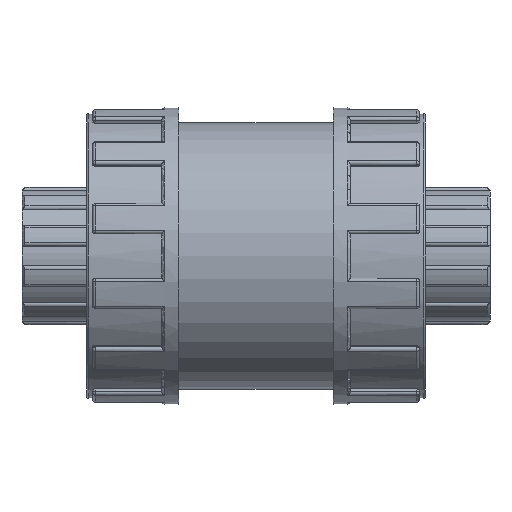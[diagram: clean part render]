
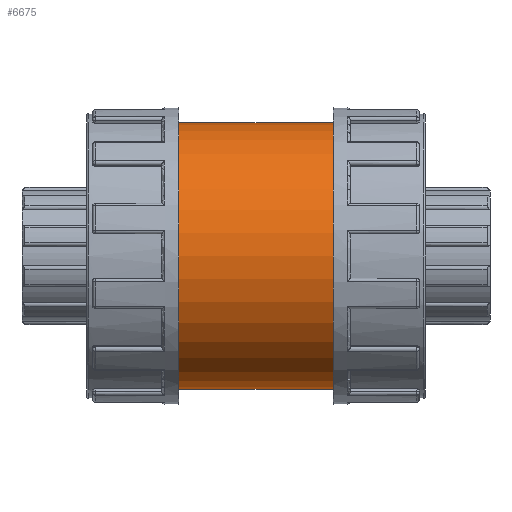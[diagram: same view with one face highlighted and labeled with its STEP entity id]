
A CAD part, front view. The second image highlights one B-rep face of the part: STEP entity #6675.
In plain terms, the highlighted cylindrical face has radius 20.25 mm (diameter 40.5 mm), a full revolution.
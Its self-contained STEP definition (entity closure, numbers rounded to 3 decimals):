
#185=FACE_BOUND('',#1099,.T.);
#186=FACE_BOUND('',#1100,.T.);
#670=FACE_OUTER_BOUND('',#1098,.T.);
#1098=EDGE_LOOP('',(#6073));
#1099=EDGE_LOOP('',(#6074));
#1100=EDGE_LOOP('',(#6075));
#1149=B_SPLINE_CURVE_WITH_KNOTS('',3,(#10735,#10736,#10737,#10738,#10739,
#10740,#10741,#10742,#10743,#10744,#10745,#10746,#10747,#10748,#10749,#10750,
#10751,#10752,#10753,#10754,#10755,#10756,#10757,#10758,#10759,#10760,#10761,
#10762,#10763,#10764,#10765,#10766,#10767,#10768),.UNSPECIFIED.,.T.,.F.,
(4,2,2,2,2,2,2,2,2,2,2,2,2,2,2,2,4),(0.,0.256,0.513,
0.769,1.026,1.282,1.538,1.795,
2.051,2.308,2.564,2.82,3.077,
3.333,3.589,3.846,4.102),
 .UNSPECIFIED.);
#2472=CIRCLE('',#7578,20.25);
#2473=CIRCLE('',#7580,20.25);
#2638=VERTEX_POINT('',#10734);
#3083=VERTEX_POINT('',#13353);
#3084=VERTEX_POINT('',#13356);
#3349=EDGE_CURVE('',#2638,#2638,#1149,.T.);
#4082=EDGE_CURVE('',#3083,#3083,#2472,.T.);
#4083=EDGE_CURVE('',#3084,#3084,#2473,.T.);
#6073=ORIENTED_EDGE('',*,*,#4082,.T.);
#6074=ORIENTED_EDGE('',*,*,#3349,.T.);
#6075=ORIENTED_EDGE('',*,*,#4083,.F.);
#6267=CYLINDRICAL_SURFACE('',#7579,20.25);
#6675=ADVANCED_FACE('',(#670,#185,#186),#6267,.T.);
#7578=AXIS2_PLACEMENT_3D('',#13354,#9749,#9750);
#7579=AXIS2_PLACEMENT_3D('',#13355,#9751,#9752);
#7580=AXIS2_PLACEMENT_3D('',#13357,#9753,#9754);
#9749=DIRECTION('center_axis',(1.,0.,0.));
#9750=DIRECTION('ref_axis',(0.,0.,-1.));
#9751=DIRECTION('center_axis',(1.,0.,0.));
#9752=DIRECTION('ref_axis',(0.,1.,0.));
#9753=DIRECTION('center_axis',(1.,0.,0.));
#9754=DIRECTION('ref_axis',(0.,0.,-1.));
#10734=CARTESIAN_POINT('',(0.,19.092,-6.75));
#10735=CARTESIAN_POINT('Ctrl Pts',(0.,19.092,
-6.75));
#10736=CARTESIAN_POINT('Ctrl Pts',(0.855,19.092,-6.75));
#10737=CARTESIAN_POINT('Ctrl Pts',(1.762,19.155,-6.578));
#10738=CARTESIAN_POINT('Ctrl Pts',(3.423,19.379,-5.887));
#10739=CARTESIAN_POINT('Ctrl Pts',(4.177,19.535,-5.369));
#10740=CARTESIAN_POINT('Ctrl Pts',(5.368,19.824,-4.177));
#10741=CARTESIAN_POINT('Ctrl Pts',(5.887,19.976,-3.423));
#10742=CARTESIAN_POINT('Ctrl Pts',(6.578,20.191,-1.762));
#10743=CARTESIAN_POINT('Ctrl Pts',(6.75,20.25,-0.854));
#10744=CARTESIAN_POINT('Ctrl Pts',(6.75,20.25,0.854));
#10745=CARTESIAN_POINT('Ctrl Pts',(6.578,20.191,1.762));
#10746=CARTESIAN_POINT('Ctrl Pts',(5.887,19.976,3.423));
#10747=CARTESIAN_POINT('Ctrl Pts',(5.368,19.824,4.177));
#10748=CARTESIAN_POINT('Ctrl Pts',(4.177,19.535,5.369));
#10749=CARTESIAN_POINT('Ctrl Pts',(3.423,19.379,5.887));
#10750=CARTESIAN_POINT('Ctrl Pts',(1.762,19.155,6.578));
#10751=CARTESIAN_POINT('Ctrl Pts',(0.855,19.092,6.75));
#10752=CARTESIAN_POINT('Ctrl Pts',(-0.855,19.092,
6.75));
#10753=CARTESIAN_POINT('Ctrl Pts',(-1.762,19.155,6.578));
#10754=CARTESIAN_POINT('Ctrl Pts',(-3.423,19.379,5.887));
#10755=CARTESIAN_POINT('Ctrl Pts',(-4.177,19.535,5.369));
#10756=CARTESIAN_POINT('Ctrl Pts',(-5.368,19.824,4.177));
#10757=CARTESIAN_POINT('Ctrl Pts',(-5.887,19.976,3.423));
#10758=CARTESIAN_POINT('Ctrl Pts',(-6.578,20.191,1.762));
#10759=CARTESIAN_POINT('Ctrl Pts',(-6.75,20.25,0.854));
#10760=CARTESIAN_POINT('Ctrl Pts',(-6.75,20.25,-0.854));
#10761=CARTESIAN_POINT('Ctrl Pts',(-6.578,20.191,-1.762));
#10762=CARTESIAN_POINT('Ctrl Pts',(-5.887,19.976,-3.423));
#10763=CARTESIAN_POINT('Ctrl Pts',(-5.368,19.824,-4.177));
#10764=CARTESIAN_POINT('Ctrl Pts',(-4.177,19.535,-5.369));
#10765=CARTESIAN_POINT('Ctrl Pts',(-3.423,19.379,-5.887));
#10766=CARTESIAN_POINT('Ctrl Pts',(-1.762,19.155,-6.578));
#10767=CARTESIAN_POINT('Ctrl Pts',(-0.855,19.092,
-6.75));
#10768=CARTESIAN_POINT('Ctrl Pts',(0.,19.092,
-6.75));
#13353=CARTESIAN_POINT('',(-11.7,20.25,0.));
#13354=CARTESIAN_POINT('Origin',(-11.7,0.,0.));
#13355=CARTESIAN_POINT('Origin',(0.,0.,0.));
#13356=CARTESIAN_POINT('',(11.7,20.25,0.));
#13357=CARTESIAN_POINT('Origin',(11.7,0.,0.));
